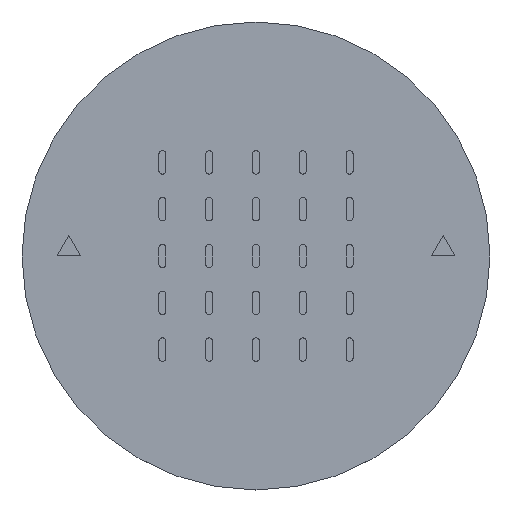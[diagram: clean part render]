
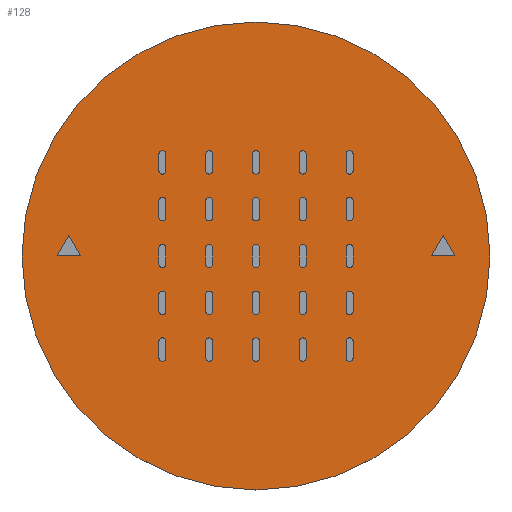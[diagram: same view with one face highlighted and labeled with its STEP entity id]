
A CAD part, top view. The second image highlights one B-rep face of the part: STEP entity #128.
In plain terms, the highlighted planar face has unit normal (0, 0, 1).
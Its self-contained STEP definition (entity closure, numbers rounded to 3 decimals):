
#63=CARTESIAN_POINT('Vertex',(50.,0.,1.)) ;
#77=CARTESIAN_POINT('Vertex',(-50.,0.,1.)) ;
#80=CARTESIAN_POINT('Axis2P3D Location',(0.,0.,1.)) ;
#97=CARTESIAN_POINT('Axis2P3D Location',(0.,0.,1.)) ;
#119=CARTESIAN_POINT('Axis2P3D Location',(0.,0.,1.)) ;
#81=DIRECTION('Axis2P3D Direction',(0.,0.,1.)) ;
#98=DIRECTION('Axis2P3D Direction',(0.,0.,1.)) ;
#120=DIRECTION('Axis2P3D Direction',(0.,0.,1.)) ;
#121=DIRECTION('Axis2P3D XDirection',(1.,0.,0.)) ;
#82=AXIS2_PLACEMENT_3D('Circle Axis2P3D',#80,#81,$) ;
#99=AXIS2_PLACEMENT_3D('Circle Axis2P3D',#97,#98,$) ;
#122=AXIS2_PLACEMENT_3D('Plane Axis2P3D',#119,#120,#121) ;
#125=ORIENTED_EDGE('',*,*,#84,.T.) ;
#126=ORIENTED_EDGE('',*,*,#101,.T.) ;
#128=ADVANCED_FACE('PartBody',(#127),#123,.T.) ;
#83=CIRCLE('generated circle',#82,50.) ;
#100=CIRCLE('generated circle',#99,50.) ;
#84=EDGE_CURVE('',#64,#78,#83,.T.) ;
#101=EDGE_CURVE('',#78,#64,#100,.T.) ;
#124=EDGE_LOOP('',(#125,#126)) ;
#127=FACE_OUTER_BOUND('',#124,.T.) ;
#123=PLANE('',#122) ;
#64=VERTEX_POINT('',#63) ;
#78=VERTEX_POINT('',#77) ;
